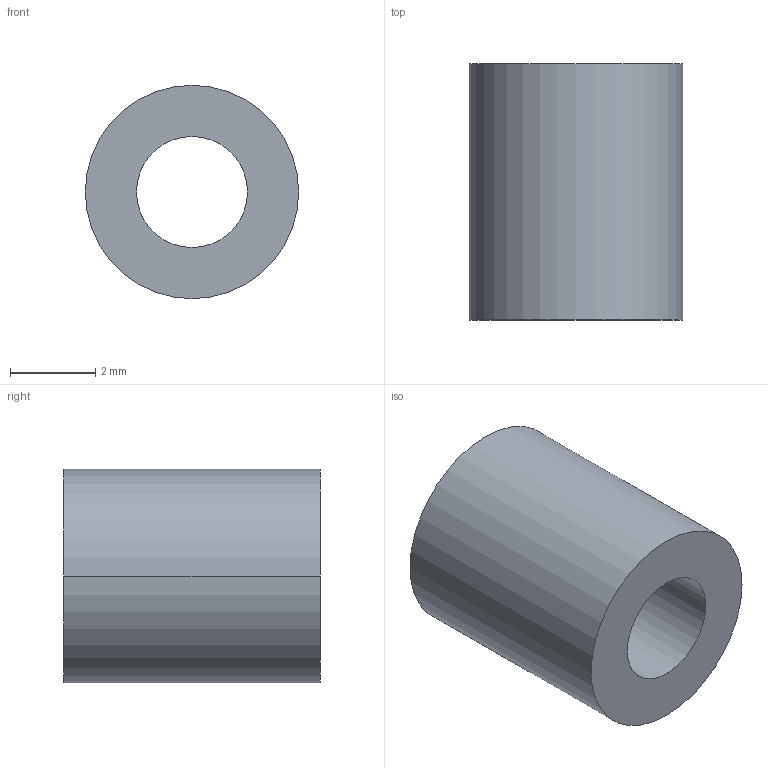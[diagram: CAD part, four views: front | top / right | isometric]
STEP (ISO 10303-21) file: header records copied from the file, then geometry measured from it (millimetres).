
FILE_DESCRIPTION (( 'STEP AP203' ), '1' );
FILE_NAME ('30800.WPP5A2.6.step', '2019-01-23T22:17:17', ( '' ), ( '' ), 'SwSTEP 2.0', 'SolidWorks 2017', '' );
FILE_SCHEMA (( 'CONFIG_CONTROL_DESIGN' ));
Length unit declared in the file: millimetre
Products named in the file (1): 30800.WPP5A2.6
Bounding box: 5 x 6 x 5 mm (x, y, z)
Volume: 83.9 mm3; surface area: 168.8 mm2
Topology: 1 solids, 1 shells, 8 faces, 16 edges, 10 vertices
Faces by surface type: cylinder 4, torus 2, plane 2
Entity records: 297 total; most frequent: DIRECTION 46, CARTESIAN_POINT 35, ORIENTED_EDGE 32, AXIS2_PLACEMENT_3D 21, EDGE_CURVE 16, CIRCLE 12, VERTEX_POINT 10, EDGE_LOOP 10
